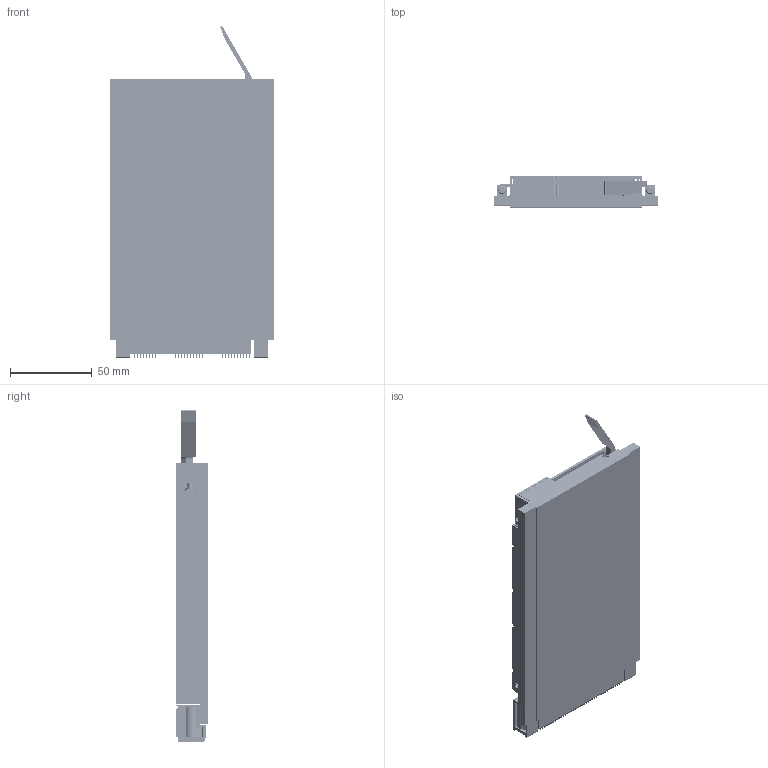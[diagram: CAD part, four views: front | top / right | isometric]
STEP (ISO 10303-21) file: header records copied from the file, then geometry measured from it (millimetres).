
FILE_DESCRIPTION (( 'STEP AP203' ), '1' );
FILE_NAME ('3U-VPX48.2-PS-260-82880 OPEN.step', '2018-06-15T20:51:21', ( '' ), ( '' ), 'SwSTEP 2.0', 'SolidWorks 2014', '' );
FILE_SCHEMA (( 'CONFIG_CONTROL_DESIGN' ));
Products named in the file (1): 3U-VPX48.2-PS-260-82880 OPEN
Bounding box: 100 x 19.27 x 203.44 mm (x, y, z)
Volume: 169006.8 mm3; surface area: 209231.4 mm2
Topology: 300 solids, 300 shells, 21685 faces, 60909 edges, 39472 vertices
Faces by surface type: plane 17819, cylinder 2683, bspline 1004, cone 178, torus 1
Entity records: 741177 total; most frequent: CARTESIAN_POINT 191068, ORIENTED_EDGE 118102, DIRECTION 104856, EDGE_CURVE 59051, LINE 51044, VECTOR 51044, VERTEX_POINT 39472, AXIS2_PLACEMENT_3D 26906
